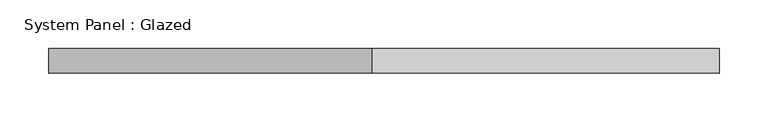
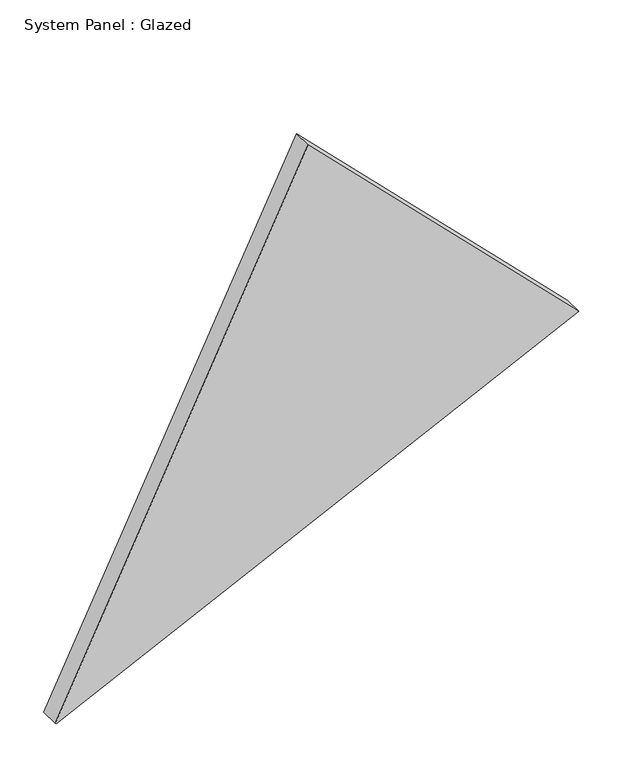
"""IFC4 building model written with IfcOpenShell, lengths in millimetres: plate geometry, System Panel : Glazed."""

from ifc_helpers import new_model, si_unit, frame, origin, place, context, project, spatial, polyline, outline, extrude, source, transform, mapped, element, save


def system_panel_glazed_93534adc(model_context):
    return source(origin(), model_context, "Body", "SweptSolid", [
        extrude(outline(polyline([(1.1855973, -344.0218523), (0.0, -342.836783), (331.89583, 344.0218523), (687.896343, -11.8201387), (1.1855973, -344.0218523)])), frame((0.0, -44.45, 0.0), z_axis=(0.0, 1.0, 0.0), x_axis=(0.0, 0.0, 1.0)), (0.0, 0.0, 1.0), 25.4),
    ])


if __name__ == "__main__":
    model = new_model("IFC4")
    model_context = context("Model", 3, world=origin())
    ifc_project = project(units=[si_unit("LENGTHUNIT", "METRE", prefix="MILLI")], contexts=[model_context])
    site = spatial("IfcSite", under=ifc_project)
    building = spatial("IfcBuilding", under=site)
    placement = place(None, origin())
    system_panel_glazed_shape = system_panel_glazed_93534adc(model_context)
    element("IfcPlate", 1, ObjectType="System Panel : Glazed", at=placement, inside=building, context=model_context, shape_type="MappedRepresentation", body=[
        mapped(system_panel_glazed_shape, transform((0.0, 0.0, 0.0), x_axis=(1.0, 0.0, 0.0), y_axis=(0.0, 1.0, 0.0), z_axis=(0.0, 0.0, 1.0))),
    ])
    save(model, "model.ifc")
